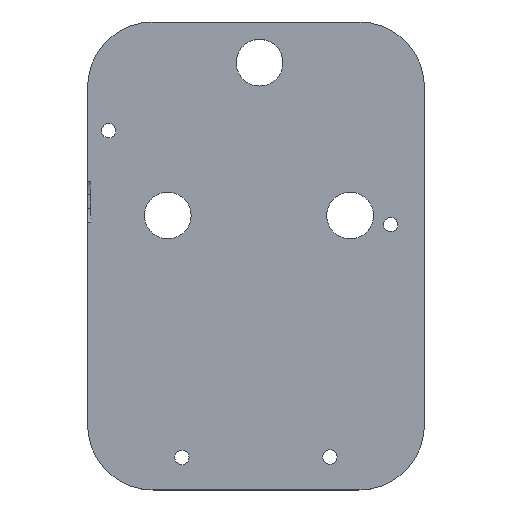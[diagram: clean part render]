
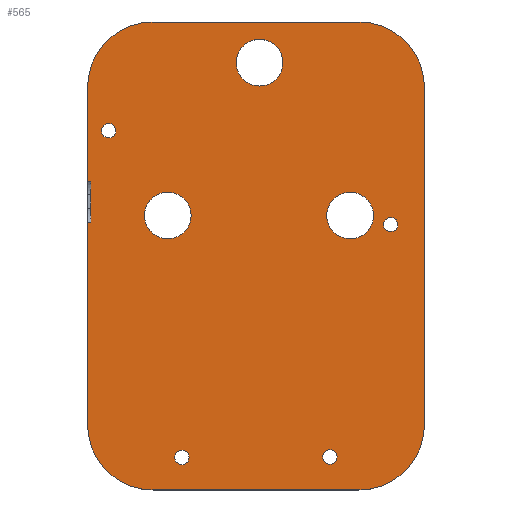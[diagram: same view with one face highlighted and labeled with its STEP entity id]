
A CAD part, top view. The second image highlights one B-rep face of the part: STEP entity #565.
In plain terms, the highlighted planar face has unit normal (0, 0, 1).
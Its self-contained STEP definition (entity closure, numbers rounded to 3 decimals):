
#26=FACE_BOUND('',#120,.T.);
#27=FACE_BOUND('',#121,.T.);
#28=FACE_BOUND('',#122,.T.);
#29=FACE_BOUND('',#123,.T.);
#30=FACE_BOUND('',#124,.T.);
#31=FACE_BOUND('',#125,.T.);
#32=FACE_BOUND('',#126,.T.);
#46=PLANE('',#644);
#77=FACE_OUTER_BOUND('',#119,.T.);
#119=EDGE_LOOP('',(#499,#500,#501,#502,#503,#504,#505,#506,#507,#508,#509,
#510));
#120=EDGE_LOOP('',(#511));
#121=EDGE_LOOP('',(#512));
#122=EDGE_LOOP('',(#513));
#123=EDGE_LOOP('',(#514));
#124=EDGE_LOOP('',(#515));
#125=EDGE_LOOP('',(#516));
#126=EDGE_LOOP('',(#517));
#134=LINE('',#844,#175);
#137=LINE('',#849,#178);
#138=LINE('',#852,#179);
#151=LINE('',#927,#192);
#156=LINE('',#941,#197);
#160=LINE('',#953,#201);
#164=LINE('',#964,#205);
#167=LINE('',#969,#208);
#175=VECTOR('',#670,10.);
#178=VECTOR('',#675,10.);
#179=VECTOR('',#678,10.);
#192=VECTOR('',#767,10.);
#197=VECTOR('',#780,10.);
#201=VECTOR('',#792,10.);
#205=VECTOR('',#804,10.);
#208=VECTOR('',#807,10.);
#225=CIRCLE('',#611,1.15);
#226=CIRCLE('',#613,1.15);
#227=CIRCLE('',#615,1.15);
#228=CIRCLE('',#617,1.15);
#230=CIRCLE('',#620,3.75);
#232=CIRCLE('',#623,3.75);
#234=CIRCLE('',#626,3.75);
#235=CIRCLE('',#629,10.5);
#237=CIRCLE('',#633,10.5);
#239=CIRCLE('',#637,10.5);
#241=CIRCLE('',#641,10.5);
#251=VERTEX_POINT('',#841);
#252=VERTEX_POINT('',#843);
#253=VERTEX_POINT('',#847);
#254=VERTEX_POINT('',#851);
#267=VERTEX_POINT('',#891);
#268=VERTEX_POINT('',#895);
#269=VERTEX_POINT('',#899);
#270=VERTEX_POINT('',#903);
#272=VERTEX_POINT('',#909);
#274=VERTEX_POINT('',#915);
#276=VERTEX_POINT('',#921);
#277=VERTEX_POINT('',#925);
#278=VERTEX_POINT('',#926);
#281=VERTEX_POINT('',#934);
#283=VERTEX_POINT('',#940);
#285=VERTEX_POINT('',#946);
#287=VERTEX_POINT('',#952);
#289=VERTEX_POINT('',#958);
#292=VERTEX_POINT('',#967);
#304=EDGE_CURVE('',#252,#251,#134,.T.);
#307=EDGE_CURVE('',#251,#253,#137,.T.);
#308=EDGE_CURVE('',#254,#252,#138,.T.);
#327=EDGE_CURVE('',#267,#267,#225,.T.);
#329=EDGE_CURVE('',#268,#268,#226,.T.);
#331=EDGE_CURVE('',#269,#269,#227,.T.);
#333=EDGE_CURVE('',#270,#270,#228,.T.);
#336=EDGE_CURVE('',#272,#272,#230,.T.);
#339=EDGE_CURVE('',#274,#274,#232,.T.);
#342=EDGE_CURVE('',#276,#276,#234,.T.);
#343=EDGE_CURVE('',#277,#278,#151,.T.);
#347=EDGE_CURVE('',#281,#277,#235,.T.);
#350=EDGE_CURVE('',#283,#281,#156,.T.);
#353=EDGE_CURVE('',#285,#283,#237,.T.);
#356=EDGE_CURVE('',#287,#285,#160,.T.);
#359=EDGE_CURVE('',#289,#287,#239,.T.);
#362=EDGE_CURVE('',#254,#289,#164,.T.);
#365=EDGE_CURVE('',#292,#253,#167,.T.);
#366=EDGE_CURVE('',#278,#292,#241,.T.);
#499=ORIENTED_EDGE('',*,*,#307,.T.);
#500=ORIENTED_EDGE('',*,*,#365,.F.);
#501=ORIENTED_EDGE('',*,*,#366,.F.);
#502=ORIENTED_EDGE('',*,*,#343,.F.);
#503=ORIENTED_EDGE('',*,*,#347,.F.);
#504=ORIENTED_EDGE('',*,*,#350,.F.);
#505=ORIENTED_EDGE('',*,*,#353,.F.);
#506=ORIENTED_EDGE('',*,*,#356,.F.);
#507=ORIENTED_EDGE('',*,*,#359,.F.);
#508=ORIENTED_EDGE('',*,*,#362,.F.);
#509=ORIENTED_EDGE('',*,*,#308,.T.);
#510=ORIENTED_EDGE('',*,*,#304,.T.);
#511=ORIENTED_EDGE('',*,*,#336,.F.);
#512=ORIENTED_EDGE('',*,*,#339,.F.);
#513=ORIENTED_EDGE('',*,*,#342,.F.);
#514=ORIENTED_EDGE('',*,*,#333,.T.);
#515=ORIENTED_EDGE('',*,*,#331,.T.);
#516=ORIENTED_EDGE('',*,*,#329,.T.);
#517=ORIENTED_EDGE('',*,*,#327,.T.);
#565=ADVANCED_FACE('',(#77,#26,#27,#28,#29,#30,#31,#32),#46,.F.);
#611=AXIS2_PLACEMENT_3D('',#893,#727,#728);
#613=AXIS2_PLACEMENT_3D('',#897,#732,#733);
#615=AXIS2_PLACEMENT_3D('',#901,#737,#738);
#617=AXIS2_PLACEMENT_3D('',#905,#742,#743);
#620=AXIS2_PLACEMENT_3D('',#911,#749,#750);
#623=AXIS2_PLACEMENT_3D('',#917,#756,#757);
#626=AXIS2_PLACEMENT_3D('',#923,#763,#764);
#629=AXIS2_PLACEMENT_3D('',#935,#773,#774);
#633=AXIS2_PLACEMENT_3D('',#947,#785,#786);
#637=AXIS2_PLACEMENT_3D('',#959,#797,#798);
#641=AXIS2_PLACEMENT_3D('',#971,#810,#811);
#644=AXIS2_PLACEMENT_3D('',#974,#816,#817);
#670=DIRECTION('',(0.,-1.,0.));
#675=DIRECTION('',(-1.,0.,0.));
#678=DIRECTION('',(1.,0.,0.));
#727=DIRECTION('center_axis',(0.,0.,-1.));
#728=DIRECTION('ref_axis',(1.,0.,0.));
#732=DIRECTION('center_axis',(0.,0.,-1.));
#733=DIRECTION('ref_axis',(1.,0.,0.));
#737=DIRECTION('center_axis',(0.,0.,-1.));
#738=DIRECTION('ref_axis',(1.,0.,0.));
#742=DIRECTION('center_axis',(0.,0.,-1.));
#743=DIRECTION('ref_axis',(1.,0.,0.));
#749=DIRECTION('center_axis',(0.,0.,1.));
#750=DIRECTION('ref_axis',(-1.,0.,0.));
#756=DIRECTION('center_axis',(0.,0.,1.));
#757=DIRECTION('ref_axis',(-1.,0.,0.));
#763=DIRECTION('center_axis',(0.,0.,1.));
#764=DIRECTION('ref_axis',(-1.,0.,0.));
#767=DIRECTION('',(-1.,0.,0.));
#773=DIRECTION('center_axis',(0.,0.,-1.));
#774=DIRECTION('ref_axis',(1.,0.,0.));
#780=DIRECTION('',(0.,-1.,0.));
#785=DIRECTION('center_axis',(0.,0.,-1.));
#786=DIRECTION('ref_axis',(0.,1.,0.));
#792=DIRECTION('',(1.,0.,0.));
#797=DIRECTION('center_axis',(0.,0.,-1.));
#798=DIRECTION('ref_axis',(-1.,0.,0.));
#804=DIRECTION('',(0.,1.,0.));
#807=DIRECTION('',(0.,1.,0.));
#810=DIRECTION('center_axis',(0.,0.,-1.));
#811=DIRECTION('ref_axis',(0.,-1.,0.));
#816=DIRECTION('center_axis',(0.,0.,-1.));
#817=DIRECTION('ref_axis',(-1.,0.,0.));
#841=CARTESIAN_POINT('',(93.923,-96.63,-0.8));
#843=CARTESIAN_POINT('',(93.923,-90.1,-0.8));
#844=CARTESIAN_POINT('',(93.923,-97.673,-0.8));
#847=CARTESIAN_POINT('',(93.423,-96.63,-0.8));
#849=CARTESIAN_POINT('',(106.923,-96.63,-0.8));
#851=CARTESIAN_POINT('',(93.423,-90.1,-0.8));
#852=CARTESIAN_POINT('',(106.923,-90.1,-0.8));
#891=CARTESIAN_POINT('',(107.395,-134.264,-0.8));
#893=CARTESIAN_POINT('Origin',(108.545,-134.264,-0.8));
#895=CARTESIAN_POINT('',(131.119,-134.186,-0.8));
#897=CARTESIAN_POINT('Origin',(132.269,-134.186,-0.8));
#899=CARTESIAN_POINT('',(95.65,-81.9,-0.8));
#901=CARTESIAN_POINT('Origin',(96.8,-81.9,-0.8));
#903=CARTESIAN_POINT('',(140.85,-96.95,-0.8));
#905=CARTESIAN_POINT('Origin',(142.,-96.95,-0.8));
#909=CARTESIAN_POINT('',(124.75,-71.,-0.8));
#911=CARTESIAN_POINT('Origin',(121.,-71.,-0.8));
#915=CARTESIAN_POINT('',(139.25,-95.5,-0.8));
#917=CARTESIAN_POINT('Origin',(135.5,-95.5,-0.8));
#921=CARTESIAN_POINT('',(110.031,-95.49,-0.8));
#923=CARTESIAN_POINT('Origin',(106.281,-95.49,-0.8));
#925=CARTESIAN_POINT('',(136.923,-139.481,-0.8));
#926=CARTESIAN_POINT('',(103.923,-139.481,-0.8));
#927=CARTESIAN_POINT('',(136.923,-139.481,-0.8));
#934=CARTESIAN_POINT('',(147.423,-128.981,-0.8));
#935=CARTESIAN_POINT('Origin',(136.923,-128.981,-0.8));
#940=CARTESIAN_POINT('',(147.423,-74.981,-0.8));
#941=CARTESIAN_POINT('',(147.423,-74.981,-0.8));
#946=CARTESIAN_POINT('',(136.923,-64.481,-0.8));
#947=CARTESIAN_POINT('Origin',(136.923,-74.981,-0.8));
#952=CARTESIAN_POINT('',(103.923,-64.481,-0.8));
#953=CARTESIAN_POINT('',(103.923,-64.481,-0.8));
#958=CARTESIAN_POINT('',(93.423,-74.981,-0.8));
#959=CARTESIAN_POINT('Origin',(103.923,-74.981,-0.8));
#964=CARTESIAN_POINT('',(93.423,-128.981,-0.8));
#967=CARTESIAN_POINT('',(93.423,-128.981,-0.8));
#969=CARTESIAN_POINT('',(93.423,-128.981,-0.8));
#971=CARTESIAN_POINT('Origin',(103.923,-128.981,-0.8));
#974=CARTESIAN_POINT('Origin',(120.423,-101.981,-0.8));
